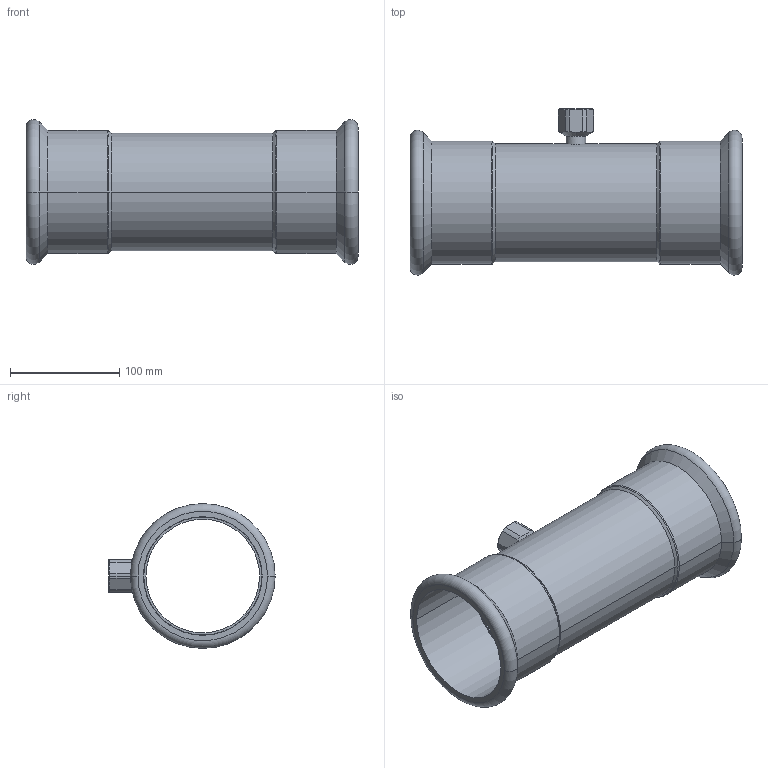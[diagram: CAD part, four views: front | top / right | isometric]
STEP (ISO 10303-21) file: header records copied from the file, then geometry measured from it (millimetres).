
FILE_DESCRIPTION(('CoCreate Modeling STEP Export'),'2;1');
FILE_NAME('C1418 108xRp3-4x108.stp','2014-11-12T15:23:34',(''),(''),'CoCreate Modeling STEP processor for AP214 (Solid Model)','CoCreate Modeling 17.00A 17-Jun-2010 (C) Parametric Technology GmbH','');
FILE_SCHEMA(('AUTOMOTIVE_DESIGN { 1 0 10303 214 1 1 1 1 }'));
Length unit declared in the file: millimetre
Products named in the file (2): C1418_108xRp3-4x108
Assembly tree (1 placements, depth 2):
  C1418_108xRp3-4x108
    C1418_108xRp3-4x108
Bounding box: 304 x 152.29 x 132.58 mm (x, y, z)
Volume: 321945.6 mm3; surface area: 226454.3 mm2
Topology: 1 solids, 1 shells, 64 faces, 153 edges, 95 vertices
Faces by surface type: cylinder 30, plane 14, cone 12, torus 8
Entity records: 3071 total; most frequent: CARTESIAN_POINT 1718, ORIENTED_EDGE 306, DIRECTION 230, EDGE_CURVE 153, VERTEX_POINT 95, AXIS2_PLACEMENT_3D 91, EDGE_LOOP 72, FACE_OUTER_BOUND 64
